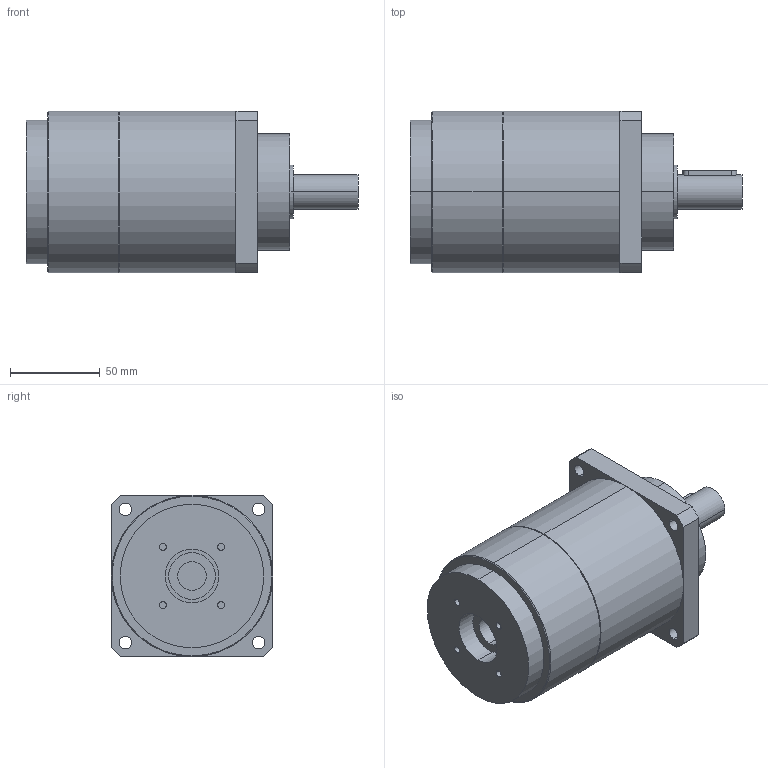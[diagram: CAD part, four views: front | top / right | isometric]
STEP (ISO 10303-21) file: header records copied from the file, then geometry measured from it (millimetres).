
FILE_DESCRIPTION(('CoCreate Modeling STEP Export'),'2;1');
FILE_NAME('GPT90_ig-9-12-16-20-25-28-35-40-50-70-100_19_B5T_16_P24.stp','2015-02-04T11:32:13',(''),(''),'CoCreate Modeling STEP processor for AP214 (Solid Model)','CoCreate Modeling 16.00C 25-Feb-2009 (C) Parametric Technology GmbH','');
FILE_SCHEMA(('AUTOMOTIVE_DESIGN { 1 0 10303 214 1 1 1 1 }'));
Length unit declared in the file: millimetre
Products named in the file (2): GPT90_ig-9-12-16-20-25-28-35-40-50-70-100_19_B5T_16_P24
Assembly tree (1 placements, depth 2):
  GPT90_ig-9-12-16-20-25-28-35-40-50-70-100_19_B5T_16_P24
    GPT90_ig-9-12-16-20-25-28-35-40-50-70-100_19_B5T_16_P24
Bounding box: 185 x 90 x 90 mm (x, y, z)
Volume: 879757.8 mm3; surface area: 64074.4 mm2
Topology: 1 solids, 1 shells, 72 faces, 182 edges, 125 vertices
Faces by surface type: cylinder 42, plane 26, cone 4
Entity records: 2313 total; most frequent: CARTESIAN_POINT 692, ORIENTED_EDGE 364, DIRECTION 272, EDGE_CURVE 182, VERTEX_POINT 125, AXIS2_PLACEMENT_3D 102, EDGE_LOOP 93, FACE_OUTER_BOUND 72
